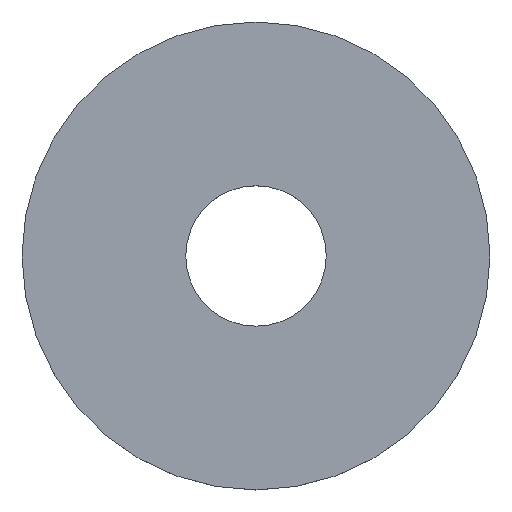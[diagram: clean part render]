
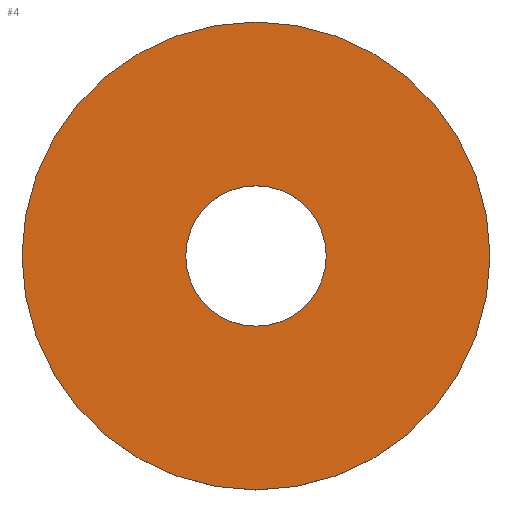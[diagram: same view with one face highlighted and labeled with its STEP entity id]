
A CAD part, top view. The second image highlights one B-rep face of the part: STEP entity #4.
In plain terms, the highlighted planar face has unit normal (0, 0, 1).
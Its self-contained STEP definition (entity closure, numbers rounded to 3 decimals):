
#4 = ADVANCED_FACE ( 'NONE', ( #247, #14 ), #63, .T. ) ;
#7 = DIRECTION ( 'NONE',  ( 0., 0., 1. ) ) ;
#9 = DIRECTION ( 'NONE',  ( 1., 0., 0. ) ) ;
#14 = FACE_BOUND ( 'NONE', #161, .T. ) ;
#19 = EDGE_CURVE ( 'NONE', #43, #221, #122, .T. ) ;
#32 = CIRCLE ( 'NONE', #156, 5.25 ) ;
#43 = VERTEX_POINT ( 'NONE', #236 ) ;
#55 = VERTEX_POINT ( 'NONE', #129 ) ;
#63 = PLANE ( 'NONE',  #152 ) ;
#68 = CARTESIAN_POINT ( 'NONE',  ( 0., 0., 0.75 ) ) ;
#81 = AXIS2_PLACEMENT_3D ( 'NONE', #237, #86, #9 ) ;
#86 = DIRECTION ( 'NONE',  ( 0., 0., 1. ) ) ;
#88 = EDGE_CURVE ( 'NONE', #95, #55, #32, .T. ) ;
#95 = VERTEX_POINT ( 'NONE', #172 ) ;
#114 = CARTESIAN_POINT ( 'NONE',  ( 0., 0., 0.75 ) ) ;
#115 = DIRECTION ( 'NONE',  ( 1., 0., 0. ) ) ;
#122 = CIRCLE ( 'NONE', #81, 17.5 ) ;
#129 = CARTESIAN_POINT ( 'NONE',  ( -5.25, 0., 0.75 ) ) ;
#130 = CARTESIAN_POINT ( 'NONE',  ( 0., 0., 0.75 ) ) ;
#133 = ORIENTED_EDGE ( 'NONE', *, *, #88, .F. ) ;
#136 = DIRECTION ( 'NONE',  ( 0., 0., 1. ) ) ;
#138 = ORIENTED_EDGE ( 'NONE', *, *, #19, .T. ) ;
#141 = CARTESIAN_POINT ( 'NONE',  ( 0., 0., 0.75 ) ) ;
#143 = ORIENTED_EDGE ( 'NONE', *, *, #188, .T. ) ;
#152 = AXIS2_PLACEMENT_3D ( 'NONE', #114, #196, #115 ) ;
#156 = AXIS2_PLACEMENT_3D ( 'NONE', #130, #7, #174 ) ;
#161 = EDGE_LOOP ( 'NONE', ( #213, #133 ) ) ;
#164 = EDGE_CURVE ( 'NONE', #55, #95, #167, .T. ) ;
#167 = CIRCLE ( 'NONE', #199, 5.25 ) ;
#172 = CARTESIAN_POINT ( 'NONE',  ( 5.25, 0., 0.75 ) ) ;
#174 = DIRECTION ( 'NONE',  ( 1., 0., 0. ) ) ;
#188 = EDGE_CURVE ( 'NONE', #221, #43, #231, .T. ) ;
#190 = EDGE_LOOP ( 'NONE', ( #138, #143 ) ) ;
#196 = DIRECTION ( 'NONE',  ( 0., 0., 1. ) ) ;
#199 = AXIS2_PLACEMENT_3D ( 'NONE', #141, #222, #246 ) ;
#200 = DIRECTION ( 'NONE',  ( 1., 0., 0. ) ) ;
#213 = ORIENTED_EDGE ( 'NONE', *, *, #164, .F. ) ;
#221 = VERTEX_POINT ( 'NONE', #244 ) ;
#222 = DIRECTION ( 'NONE',  ( 0., 0., 1. ) ) ;
#231 = CIRCLE ( 'NONE', #242, 17.5 ) ;
#236 = CARTESIAN_POINT ( 'NONE',  ( -17.5, 0., 0.75 ) ) ;
#237 = CARTESIAN_POINT ( 'NONE',  ( 0., 0., 0.75 ) ) ;
#242 = AXIS2_PLACEMENT_3D ( 'NONE', #68, #136, #200 ) ;
#244 = CARTESIAN_POINT ( 'NONE',  ( 17.5, 0., 0.75 ) ) ;
#246 = DIRECTION ( 'NONE',  ( 1., 0., 0. ) ) ;
#247 = FACE_OUTER_BOUND ( 'NONE', #190, .T. ) ;
